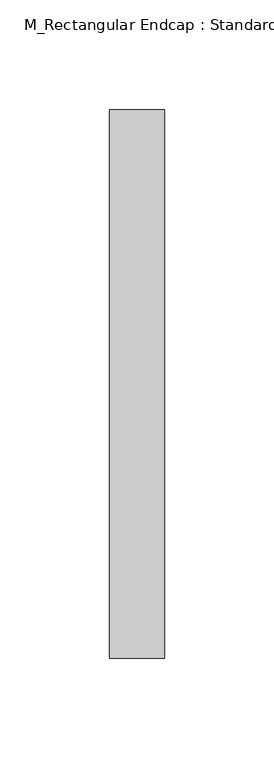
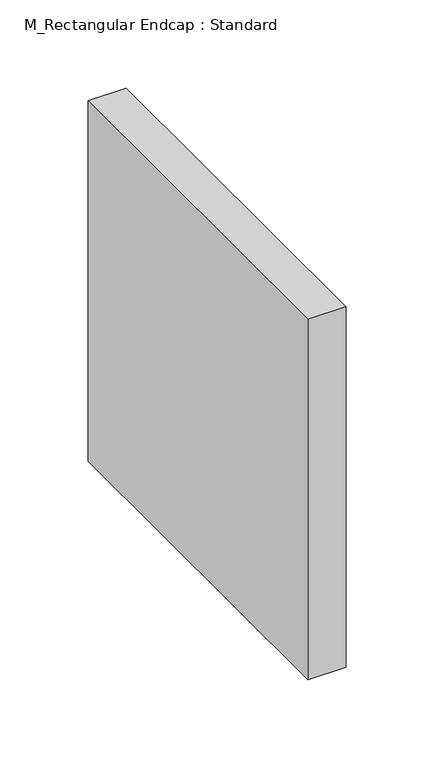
"""IFC4 building model written with IfcOpenShell, lengths in millimetres: duct fitting geometry, M_Rectangular Endcap : Standard."""

from ifc_helpers import new_model, si_unit, frame, origin, place, context, project, spatial, polyline, outline, extrude, source, transform, mapped, element, save


def m_rectangular_endcap_standard_ffc747e0(model_context):
    return source(origin(), model_context, "Body", "SweptSolid", [
        extrude(outline(polyline([(0.0, -125.0), (0.0, 125.0), (25.0, 125.0), (25.0, -125.0), (0.0, -125.0)])), frame((0.0, 0.0, -125.0), z_axis=(0.0, 0.0, 1.0), x_axis=(1.0, 0.0, 0.0)), (0.0, 0.0, 1.0), 250.0),
        extrude(outline(polyline([(0.0, -125.0), (0.0, 125.0), (25.0, 125.0), (25.0, -125.0), (0.0, -125.0)])), frame((0.0, 0.0, -125.0), z_axis=(0.0, 0.0, 1.0), x_axis=(1.0, 0.0, 0.0)), (0.0, 0.0, 1.0), 250.0),
        extrude(outline(polyline([(0.0, -125.0), (0.0, 125.0), (25.0, 125.0), (25.0, -125.0), (0.0, -125.0)])), frame((0.0, 0.0, -125.0), z_axis=(0.0, 0.0, 1.0), x_axis=(1.0, 0.0, 0.0)), (0.0, 0.0, 1.0), 250.0),
    ])


if __name__ == "__main__":
    model = new_model("IFC4")
    model_context = context("Model", 3, world=origin())
    ifc_project = project(units=[si_unit("LENGTHUNIT", "METRE", prefix="MILLI")], contexts=[model_context])
    site = spatial("IfcSite", under=ifc_project)
    building = spatial("IfcBuilding", under=site)
    placement = place(None, origin())
    m_rectangular_endcap_standard_shape = m_rectangular_endcap_standard_ffc747e0(model_context)
    element("IfcDuctFitting", 1, ObjectType="M_Rectangular Endcap : Standard", at=placement, inside=building, context=model_context, shape_type="MappedRepresentation", body=[
        mapped(m_rectangular_endcap_standard_shape, transform((0.0, 0.0, 0.0), x_axis=(1.0, 0.0, 0.0), y_axis=(0.0, 1.0, 0.0), z_axis=(0.0, 0.0, 1.0))),
    ])
    save(model, "model.ifc")
